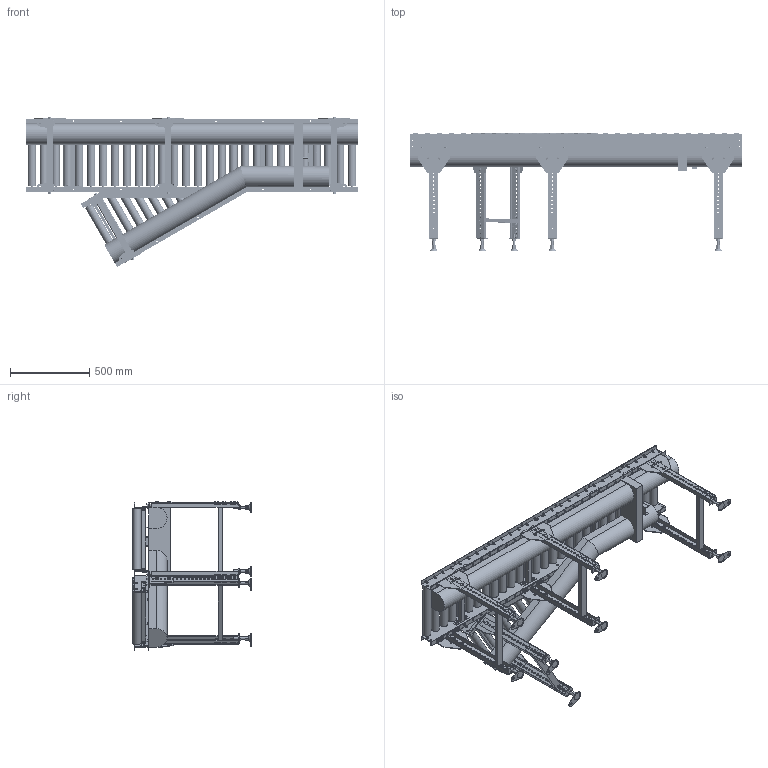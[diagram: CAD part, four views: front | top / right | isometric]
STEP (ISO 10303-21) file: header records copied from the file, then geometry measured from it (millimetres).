
FILE_DESCRIPTION( (''), '2;1');
FILE_NAME ('WEB-MCD-50-400-75-210-L-J30.stp','2025-07-01T15:45:01',(''),(''),'spGate 20.6.2 (****-****-****-****)','','');
FILE_SCHEMA (('AUTOMOTIVE_DESIGN'));
Length unit declared in the file: millimetre
Products named in the file (67): WEB-MCD-50-400-75-210-L-J30; TEMP_X_T-prt0; TEMP_X_T-prt1; TEMP_X_T-prt2; TEMP_X_T-prt3; TEMP_X_T-prt4; TEMP_X_T-prt5; TEMP_X_T-prt6; TEMP_X_T-prt7; TEMP_X_T-prt8; TEMP_X_T-prt9; TEMP_X_T-prt10; TEMP_X_T-prt11; TEMP_X_T-prt12; TEMP_X_T-prt13; TEMP_X_T-prt14; TEMP_X_T-prt15; TEMP_X_T-prt16; TEMP_X_T-prt17; TEMP_X_T-prt18; TEMP_X_T-prt19; TEMP_X_T-prt20; TEMP_X_T-prt21; TEMP_X_T-prt22; TEMP_X_T-prt23; TEMP_X_T-prt24; TEMP_X_T-prt25; TEMP_X_T-prt26; TEMP_X_T-prt27; TEMP_X_T-prt28; TEMP_X_T-prt29; TEMP_X_T-prt30; TEMP_X_T-prt31; TEMP_X_T-prt32; TEMP_X_T-prt33; TEMP_X_T-prt34; TEMP_X_T-prt35; TEMP_X_T-prt36; TEMP_X_T-prt37; TEMP_X_T-prt38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
Assembly tree (66 placements, depth 2):
  WEB-MCD-50-400-75-210-L-J30
    TEMP_X_T-prt0
    TEMP_X_T-prt1
    TEMP_X_T-prt2
    TEMP_X_T-prt3
    TEMP_X_T-prt4
    TEMP_X_T-prt5
    TEMP_X_T-prt6
    TEMP_X_T-prt7
    TEMP_X_T-prt8
    TEMP_X_T-prt9
    TEMP_X_T-prt10
    TEMP_X_T-prt11
    TEMP_X_T-prt12
    TEMP_X_T-prt13
    TEMP_X_T-prt14
    TEMP_X_T-prt15
    TEMP_X_T-prt16
    TEMP_X_T-prt17
    TEMP_X_T-prt18
    TEMP_X_T-prt19
    TEMP_X_T-prt20
    TEMP_X_T-prt21
    TEMP_X_T-prt22
    TEMP_X_T-prt23
    TEMP_X_T-prt24
    TEMP_X_T-prt25
    TEMP_X_T-prt26
    TEMP_X_T-prt27
    TEMP_X_T-prt28
    TEMP_X_T-prt29
    TEMP_X_T-prt30
    TEMP_X_T-prt31
    TEMP_X_T-prt32
    TEMP_X_T-prt33
    TEMP_X_T-prt34
    TEMP_X_T-prt35
    TEMP_X_T-prt36
    TEMP_X_T-prt37
    TEMP_X_T-prt38
    TEMP_X_T-prt39
    TEMP_X_T-prt40
    TEMP_X_T-prt41
    TEMP_X_T-prt42
    TEMP_X_T-prt43
    TEMP_X_T-prt44
    TEMP_X_T-prt45
    TEMP_X_T-prt46
    TEMP_X_T-prt47
    TEMP_X_T-prt48
    TEMP_X_T-prt49
    TEMP_X_T-prt50
    TEMP_X_T-prt51
    TEMP_X_T-prt52
    TEMP_X_T-prt53
    TEMP_X_T-prt54
    TEMP_X_T-prt55
    TEMP_X_T-prt56
    TEMP_X_T-prt57
    TEMP_X_T-prt58
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Bounding box: 2100 x 750 x 948.19 mm (x, y, z)
Volume: 88587556 mm3; surface area: 7862414.8 mm2
Topology: 66 solids, 108 shells, 4146 faces, 11010 edges, 7248 vertices
Faces by surface type: plane 3301, cylinder 837, bspline 8
Full cylindrical faces by diameter (mm): 9 x13, 10 x102, 10.5 x184, 11 x76, 12 x69, 13 x23, 16 x8, 18.4 x48, 18.5 x16, 21 x24, 50.8 x38
Entity records: 220304 total; most frequent: CARTESIAN_POINT 24293, DIRECTION 22283, ORIENTED_EDGE 22020, COLOUR_RGB 15222, PRESENTATION_STYLE_ASSIGNMENT 15222, STYLED_ITEM 15222, EDGE_CURVE 11010, DRAUGHTING_PRE_DEFINED_CURVE_FONT 11010
